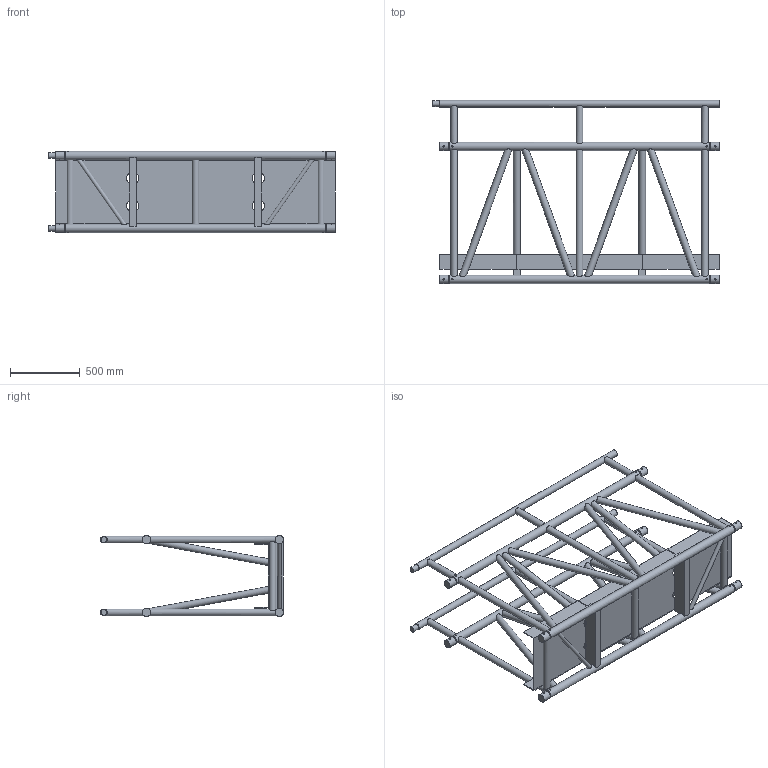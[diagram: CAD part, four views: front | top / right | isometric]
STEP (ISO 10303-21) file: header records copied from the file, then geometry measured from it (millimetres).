
FILE_DESCRIPTION(/* description */ (''),/* implementation_level */ '2;1');
FILE_NAME(/* name */ 'M:\Symbolen_NIEUW\STP\100-er truss\B100CW\B100CW-L200_111110001.stp',/* time_stamp */ '2017-12-06T13:23:21+01:00',/* author */ ('Kees'),/* organization */ (''),/* preprocessor_version */ 'ST-DEVELOPER v16.13',/* originating_system */ 'Autodesk Inventor 2018',/* authorisation */ '');
FILE_SCHEMA (('AUTOMOTIVE_DESIGN { 1 0 10303 214 3 1 1 }'));
Length unit declared in the file: millimetre
Products named in the file (1): 260006243
Bounding box: 2050 x 1309.15 x 580 mm (x, y, z)
Volume: 77575345.8 mm3; surface area: 7995150.6 mm2
Topology: 1 solids, 1 shells, 352 faces, 1011 edges, 646 vertices
Faces by surface type: plane 219, cylinder 93, cone 40
Full cylindrical faces by diameter (mm): 10 x8, 30 x2, 40 x2, 48.3 x29, 58.8 x8, 60 x4
Entity records: 14432 total; most frequent: CARTESIAN_POINT 5451, ORIENTED_EDGE 1724, DIRECTION 1706, EDGE_CURVE 862, AXIS2_PLACEMENT_3D 647, VERTEX_POINT 592, EDGE_LOOP 524, LINE 412
